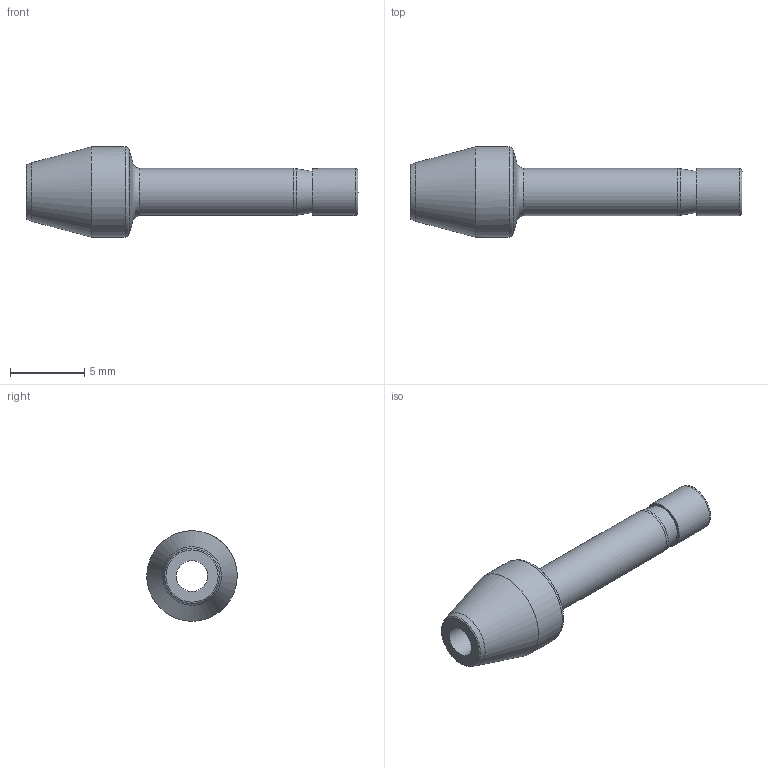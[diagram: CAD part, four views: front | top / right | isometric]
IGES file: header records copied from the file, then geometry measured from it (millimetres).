
Global section: file name: SPC-2; native system: Autodesk Inventor 2016; preprocessor: unknown; author: DESIGNPC2; date: 20151219.130955; units: millimetre
Bounding box: 22.4 x 6.1 x 6.1 mm (x, y, z)
Volume: 206.6 mm3; surface area: 448.8 mm2
Topology: 1 solids, 1 shells, 16 faces, 53 edges, 40 vertices
Faces by surface type: bspline 16
